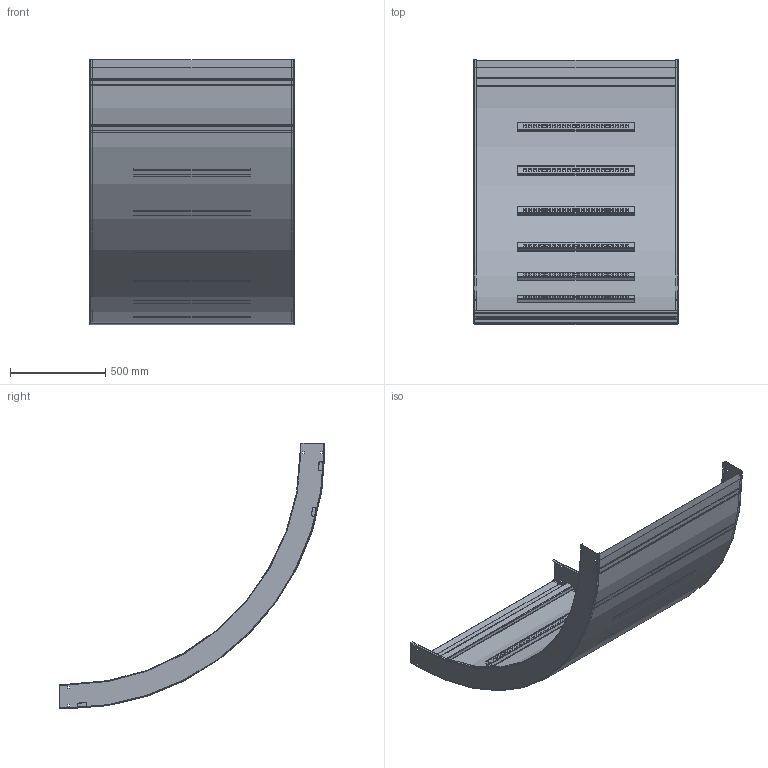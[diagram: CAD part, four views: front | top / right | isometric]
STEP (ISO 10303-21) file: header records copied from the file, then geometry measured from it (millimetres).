
FILE_DESCRIPTION((''),'2;1');
FILE_NAME('AUF542SVI9048_ASM','2010-01-28T',('erouzier'),(''),'PRO/ENGINEER BY PARAMETRIC TECHNOLOGY CORPORATION, 2008510','PRO/ENGINEER BY PARAMETRIC TECHNOLOGY CORPORATION, 2008510','');
FILE_SCHEMA(('CONFIG_CONTROL_DESIGN'));
Length unit declared in the file: inch
Products named in the file (5): CDS001417_5_90_48; CDS002159L42; CDS002159L24-P; CDS003741_90_48_42; AUF542SVI9048_ASM
Assembly tree (12 placements, depth 2):
  AUF542SVI9048_ASM
    CDS001417_5_90_48  x2
    CDS002159L42  x3
    CDS002159L24-P  x6
    CDS003741_90_48_42
Bounding box: 1070.91 x 1393.72 x 1392.71 mm (x, y, z)
Volume: 4617687.9 mm3; surface area: 7555500.8 mm2
Topology: 12 solids, 12 shells, 1456 faces, 4224 edges, 2792 vertices
Faces by surface type: plane 795, cylinder 653, torus 8
Entity records: 10183 total; most frequent: DIRECTION 1762, CARTESIAN_POINT 1745, ORIENTED_EDGE 1720, EDGE_CURVE 860, VECTOR 608, LINE 608, AXIS2_PLACEMENT_3D 577, VERTEX_POINT 560
